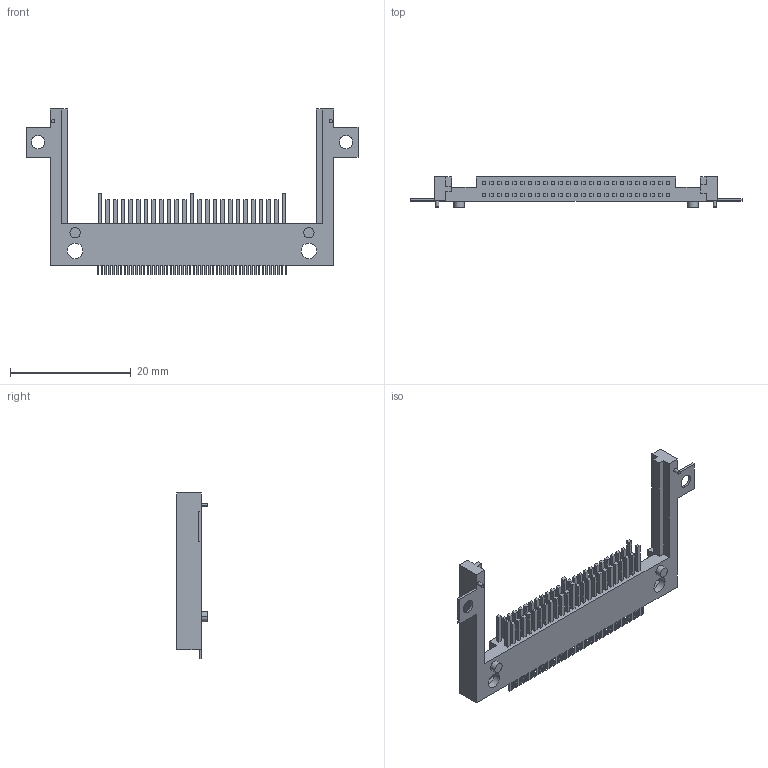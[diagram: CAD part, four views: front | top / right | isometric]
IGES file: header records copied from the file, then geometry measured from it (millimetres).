
Start section:  PTC IGES file: cfconn_prt.igs
Global section: file name: cfconn_prt.igs; native system: Pro/ENGINEER by Parametric Technology Corporation; preprocessor: 2000030; author: ECaille; organization: Unknown; date: 000803.091929; units: millimetre
Bounding box: 55 x 5 x 27.5 mm (x, y, z)
Surface area: 2321.8 mm2 (no closed solid volume)
Topology: 0 solids, 0 shells, 524 faces, 4650 edges, 6480 vertices
Faces by surface type: bspline 508, revolution 16
